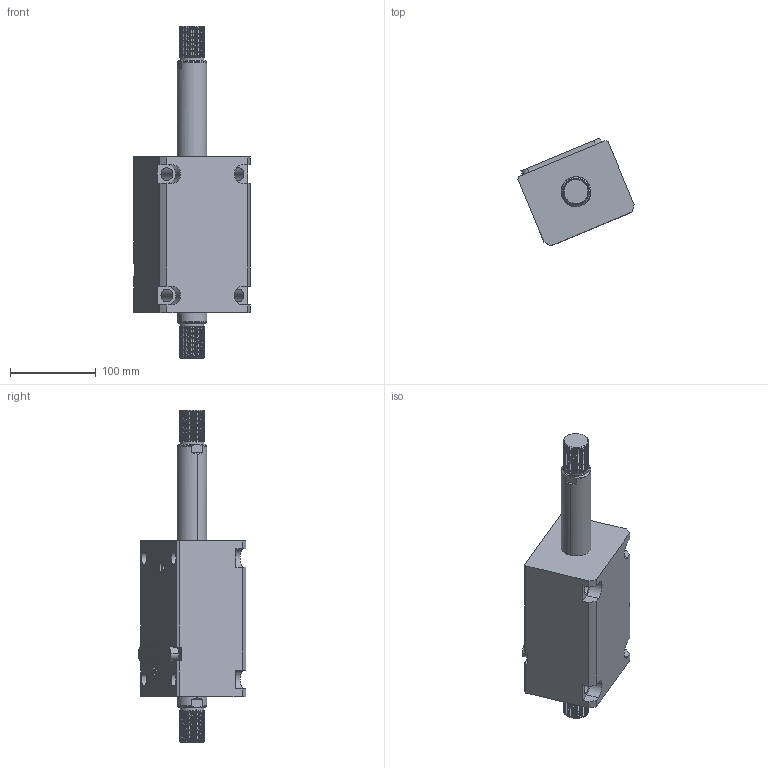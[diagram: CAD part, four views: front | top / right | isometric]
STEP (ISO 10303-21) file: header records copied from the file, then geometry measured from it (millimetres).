
FILE_DESCRIPTION (( 'STEP AP214' ), '1' );
FILE_NAME ('chtb-lwm63x100w_asm.STEP', '2018-05-22T02:01:49', ( 'Windows' ), ( 'Microsoft' ), 'SwSTEP 2.0', 'SolidWorks 2015', '' );
FILE_SCHEMA (( 'AUTOMOTIVE_DESIGN' ));
Length unit declared in the file: millimetre
Products named in the file (5): CHTB-63QG; chtb-lwm63x100w_asm; CHTB-SW63X100WHSG; CHTB-LWM63X100NBT; CHTB-LA63PJ
Assembly tree (4 placements, depth 2):
  chtb-lwm63x100w_asm
    CHTB-63QG
    CHTB-LA63PJ
    CHTB-LWM63X100NBT
    CHTB-SW63X100WHSG
Bounding box: 135.77 x 126.06 x 388 mm (x, y, z)
Volume: 1726189.3 mm3; surface area: 220962.7 mm2
Topology: 4 solids, 4 shells, 298 faces, 869 edges, 587 vertices
Faces by surface type: cylinder 203, plane 55, bspline 16, cone 12, torus 12
Entity records: 27660 total; most frequent: CARTESIAN_POINT 20506, ORIENTED_EDGE 1730, DIRECTION 1186, EDGE_CURVE 865, VERTEX_POINT 587, AXIS2_PLACEMENT_3D 440, EDGE_LOOP 326, LINE 306
